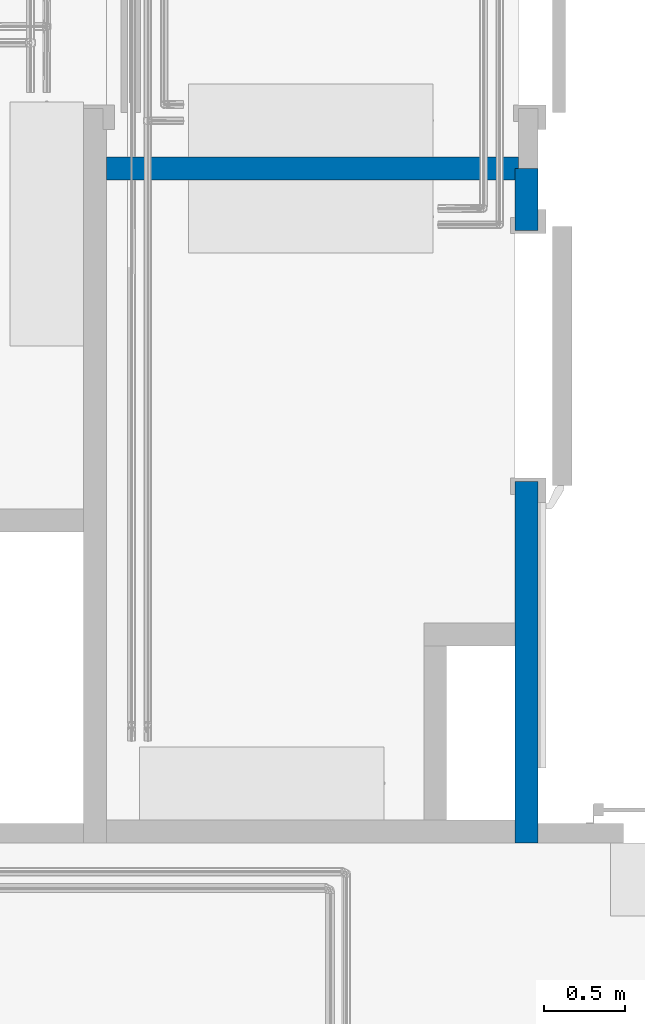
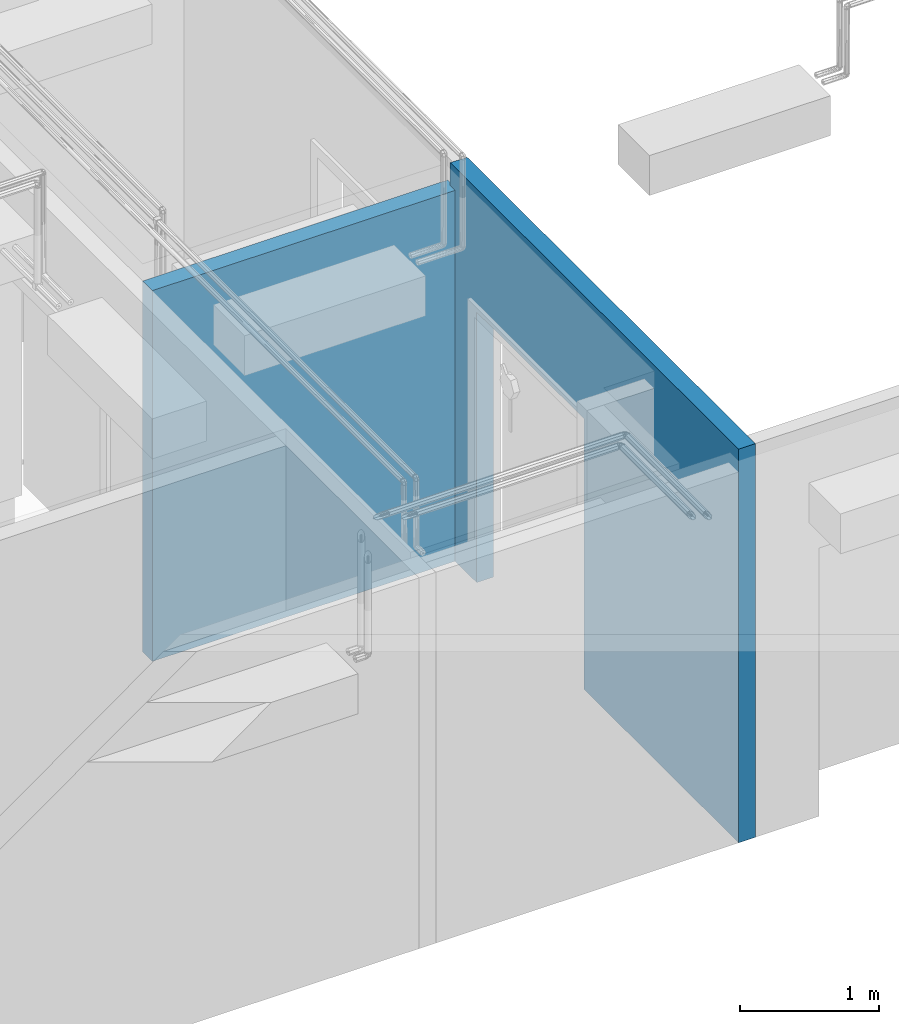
# One storey, part 12 of 652: 2 walls, 1 opening.
"""IFC2X3 building model written with IfcOpenShell, lengths in millimetres."""

from ifc_helpers import new_model, entity, si_unit, converted_unit, direction, frame, frame_2d, origin, place, context, subcontext, project, spatial, polyline, rectangle, outline, extrude, material, layer, layer_set, layer_usage, type_object, element, save


model = new_model("IFC2X3")

# Units and contexts
model_context = context("Model", 3, precision=0.01, world=frame((0.0, 0.0, 308426.39999999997)), true_north=direction((6.123233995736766e-17, 1.0)))
plan_context = context("Plan", 3, precision=0.01, world=frame((0.0, 0.0, 308426.39999999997)), true_north=direction((6.123233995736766e-17, 1.0)))
body_context = subcontext(model_context, "Body", "Model", "MODEL_VIEW")
ifc_project = project(units=[si_unit("LENGTHUNIT", "METRE", prefix="MILLI"), si_unit("AREAUNIT", "SQUARE_METRE"), si_unit("VOLUMEUNIT", "CUBIC_METRE"), converted_unit("PLANEANGLEUNIT", "DEGREE", entity("IfcPlaneAngleMeasure", 0.017453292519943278), si_unit("PLANEANGLEUNIT", "RADIAN"), dimensions=[0, 0, 0, 0, 0, 0, 0])], contexts=[model_context, plan_context])

# Site, building, storey
site_placement = place(None, origin())
site = spatial("IfcSite", under=ifc_project, at=site_placement, Name="Default", CompositionType="ELEMENT")
building_placement = place(site_placement, origin())
building = spatial("IfcBuilding", under=site, at=building_placement, CompositionType="ELEMENT")
storey_placement = place(building_placement, frame((0.0, 0.0, 1730.6999999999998)))
storey = spatial("IfcBuildingStorey", under=building, at=storey_placement, Name="EG_Produktion_FFB", CompositionType="ELEMENT", Elevation=1730.6999999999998)

# Wall
ifc_material = material(Name="GPG_Paneelwand")
ifc_layer = layer(ifc_material, 140.0)
ifc_layer_set = layer_set([ifc_layer], Name="Basiswand:Kühlzellen Paneelwand 140")
ifc_layer_usage_1 = layer_usage(ifc_layer_set, "AXIS2", "NEGATIVE", 70.0)
wall_type = type_object("IfcWallType", Name="Basiswand:Kühlzellen Paneelwand 140", PredefinedType="STANDARD", material=ifc_layer_set)
wall_1_placement = place(storey_placement, frame((35425.0, 54740.0, -250.0)))
element("IfcWallStandardCase", 1, at=wall_1_placement, inside=storey, type_object=wall_type, material=ifc_layer_usage_1, Name="Basiswand:Kühlzellen Paneelwand 140", ObjectType="Basiswand:Kühlzellen Paneelwand 140", context=body_context, shape_type="SweptSolid", body=[
    extrude(outline(polyline([(-70.0, 830.0), (-70.0, -1680.0), (70.0, -1680.0), (70.0, 850.0), (0.0, 850.0), (0.0, 830.0), (-70.0, 830.0)])), frame((1680.0, 0.0, 0.0), z_axis=(0.0, 0.0, -1.0), x_axis=(0.0, 1.0, 0.0)), (0.0, 0.0, -1.0), 3249.9999999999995),
])

# Wall, opening
ifc_layer_usage_2 = layer_usage(ifc_layer_set, "AXIS2", "NEGATIVE", 70.0)
wall_2_placement = place(storey_placement, frame((38005.0, 54740.0, -250.0), z_axis=(0.0, 0.0, 1.0), x_axis=(0.0, -1.0, 0.0)))
wall_2 = element("IfcWallStandardCase", 2, at=wall_2_placement, inside=storey, type_object=wall_type, material=ifc_layer_usage_2, Name="Basiswand:Kühlzellen Paneelwand 140", ObjectType="Basiswand:Kühlzellen Paneelwand 140", context=body_context, shape_type="SweptSolid", body=[
    extrude(rectangle(XDim=4140.000000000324, YDim=140.0000000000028, at=frame_2d((2070.000000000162, 0.0), x_axis=(-1.0, 0.0))), origin(), (0.0, 0.0, 1.0), 3449.9999999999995),
])
opening_placement = place(wall_2_placement, frame((380.0, -70.0, 0.0)))
element("IfcOpeningElement", 3, at=opening_placement, cuts=wall_2, Name="Tiefkühlraumschiebetür:TKR Schiebetür 1500x2100:1", ObjectType="Opening", context=body_context, shape_type="SweptSolid", body=[
    extrude(rectangle(XDim=2370.000000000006, YDim=1539.9999999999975, at=frame_2d((1185.000000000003, 769.9999999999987), x_axis=(1.0, 0.0))), frame((0.0, 0.0, 0.0), z_axis=(0.0, 1.0, 0.0), x_axis=(0.0, 0.0, 1.0)), (0.0, 0.0, 1.0), 140.0),
])

save(model, "model.ifc")
